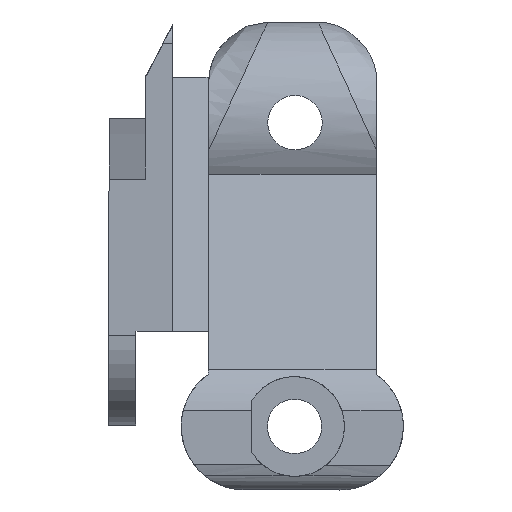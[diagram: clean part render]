
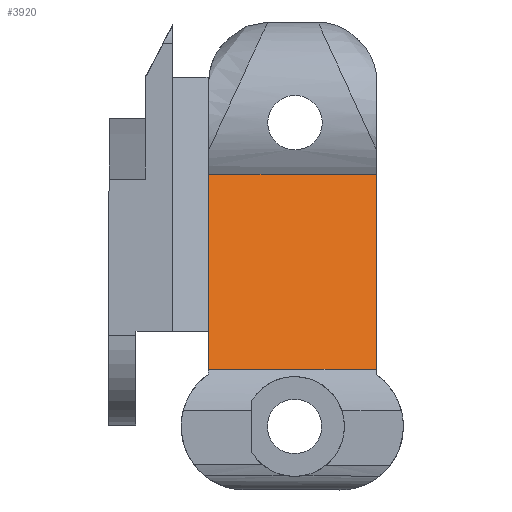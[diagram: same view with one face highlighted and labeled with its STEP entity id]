
A CAD part, left-side view. The second image highlights one B-rep face of the part: STEP entity #3920.
In plain terms, the highlighted planar face has unit normal (-0.966, 0, 0.259).
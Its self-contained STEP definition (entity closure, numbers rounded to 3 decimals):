
#26 = FACE_OUTER_BOUND ( 'NONE', #1505, .T. ) ;
#178 = EDGE_CURVE ( 'NONE', #3001, #1780, #2447, .T. ) ;
#234 = CARTESIAN_POINT ( 'NONE',  ( -9.525, -9.225, -16.818 ) ) ;
#331 = DIRECTION ( 'NONE',  ( 0.259, -0.001, 0.966 ) ) ;
#446 = VECTOR ( 'NONE', #331, 1000. ) ;
#452 = VERTEX_POINT ( 'NONE', #542 ) ;
#514 = AXIS2_PLACEMENT_3D ( 'NONE', #1889, #2529, #2227 ) ;
#542 = CARTESIAN_POINT ( 'NONE',  ( -15.287, 9.307, -38.295 ) ) ;
#544 = CARTESIAN_POINT ( 'NONE',  ( -9.525, -9.225, -16.818 ) ) ;
#715 = EDGE_CURVE ( 'NONE', #717, #3001, #3044, .T. ) ;
#717 = VERTEX_POINT ( 'NONE', #3915 ) ;
#867 = CARTESIAN_POINT ( 'NONE',  ( -9.525, 9.275, -16.79 ) ) ;
#1135 = EDGE_CURVE ( 'NONE', #452, #717, #1369, .T. ) ;
#1211 = DIRECTION ( 'NONE',  ( -0.259, 0.001, -0.966 ) ) ;
#1240 = PLANE ( 'NONE',  #514 ) ;
#1253 = ORIENTED_EDGE ( 'NONE', *, *, #4156, .T. ) ;
#1344 = ORIENTED_EDGE ( 'NONE', *, *, #715, .T. ) ;
#1369 = LINE ( 'NONE', #2531, #3859 ) ;
#1505 = EDGE_LOOP ( 'NONE', ( #1344, #3365, #1253, #3767 ) ) ;
#1780 = VERTEX_POINT ( 'NONE', #2118 ) ;
#1889 = CARTESIAN_POINT ( 'NONE',  ( -9.525, -12.225, -16.822 ) ) ;
#2118 = CARTESIAN_POINT ( 'NONE',  ( -9.525, 9.275, -16.79 ) ) ;
#2171 = LINE ( 'NONE', #867, #3786 ) ;
#2227 = DIRECTION ( 'NONE',  ( 0.259, 0., 0.966 ) ) ;
#2343 = VECTOR ( 'NONE', #3854, 1000. ) ;
#2447 = LINE ( 'NONE', #544, #2343 ) ;
#2529 = DIRECTION ( 'NONE',  ( -0.966, 0., 0.259 ) ) ;
#2531 = CARTESIAN_POINT ( 'NONE',  ( -15.287, 9.307, -38.295 ) ) ;
#2614 = CARTESIAN_POINT ( 'NONE',  ( -15.287, -9.193, -38.322 ) ) ;
#3001 = VERTEX_POINT ( 'NONE', #234 ) ;
#3044 = LINE ( 'NONE', #2614, #446 ) ;
#3365 = ORIENTED_EDGE ( 'NONE', *, *, #178, .T. ) ;
#3767 = ORIENTED_EDGE ( 'NONE', *, *, #1135, .T. ) ;
#3786 = VECTOR ( 'NONE', #1211, 1000. ) ;
#3839 = DIRECTION ( 'NONE',  ( 0., -1., -0.001 ) ) ;
#3854 = DIRECTION ( 'NONE',  ( 0., 1., 0.001 ) ) ;
#3859 = VECTOR ( 'NONE', #3839, 1000. ) ;
#3915 = CARTESIAN_POINT ( 'NONE',  ( -15.287, -9.193, -38.322 ) ) ;
#3920 = ADVANCED_FACE ( 'NONE', ( #26 ), #1240, .T. ) ;
#4156 = EDGE_CURVE ( 'NONE', #1780, #452, #2171, .T. ) ;
